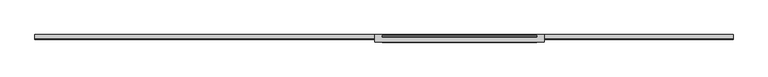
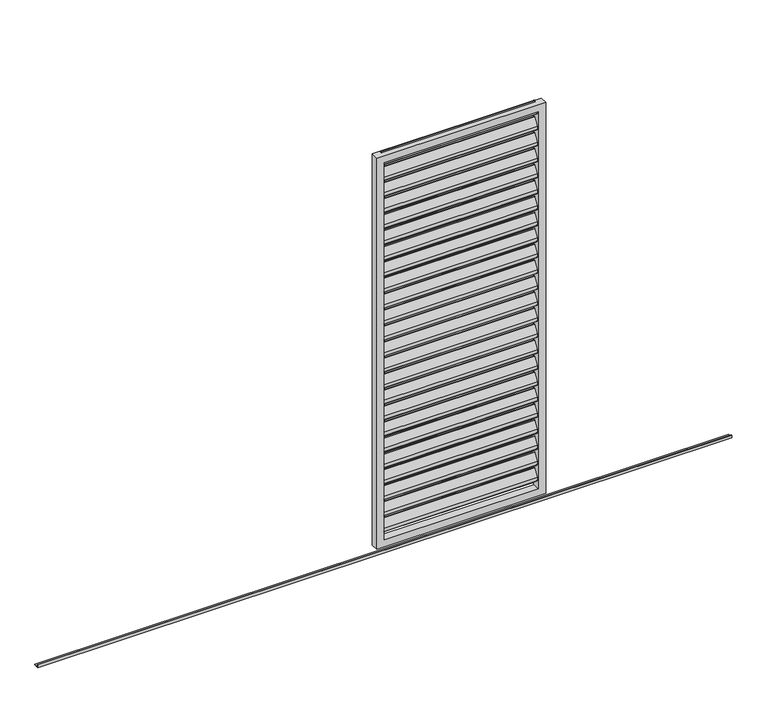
"""IFC4 building model written with IfcOpenShell, lengths in millimetres: proxy geometry, Renson_Amani_Loggia_Paro_Aluminium_Sliding : Renson_Amani_Loggia_Paro_Aluminium_Sliding."""

from ifc_helpers import new_model, si_unit, point, frame, frame_2d, origin, place, context, project, spatial, polyline, circle_curve, trimmed, segment, composite_curve, outline, extrude, source, transform, mapped, element, save


def generic_models_f3fb5b0b(model_context):
    return source(origin(), model_context, "Body", "SweptSolid", [
        extrude(outline(composite_curve([segment(trimmed(circle_curve(frame_2d((12.6675921, 2252.6587719)), 3.0), [point((10.1515804, 2254.292689))], [point((15.6675921, 2252.6587719))], False, "CARTESIAN"), True, "CONTINUOUS"), segment(polyline([(15.6675921, 2252.6587719), (15.6675921, 2234.2979873)]), True, "CONTINUOUS"), segment(trimmed(circle_curve(frame_2d((12.6675921, 2234.2979873)), 3.0), [point((15.6675921, 2234.2979873))], [point((15.1836038, 2232.6640702))], False, "CARTESIAN"), True, "CONTINUOUS"), segment(polyline([(15.1836038, 2232.6640702), (-8.8163962, 2195.707311)]), True, "CONTINUOUS"), segment(trimmed(circle_curve(frame_2d((-11.3324079, 2197.3412281)), 3.0), [point((-8.8163962, 2195.707311))], [point((-14.3324079, 2197.3412281))], False, "CARTESIAN"), True, "CONTINUOUS"), segment(polyline([(-14.3324079, 2197.3412281), (-14.3324079, 2216.5906532), (10.1515804, 2254.292689)]), True, "CONTINUOUS")], self_intersect=False)), frame((-410.0, 0.0, 0.0), z_axis=(1.0, 0.0, 0.0), x_axis=(0.0, 1.0, 0.0)), (0.0, 0.0, 1.0), 820.0),
        extrude(outline(composite_curve([segment(trimmed(circle_curve(frame_2d((12.6675921, 2162.6587719)), 3.0), [point((10.1515804, 2164.292689))], [point((15.6675921, 2162.6587719))], False, "CARTESIAN"), True, "CONTINUOUS"), segment(polyline([(15.6675921, 2162.6587719), (15.6675921, 2144.2979873)]), True, "CONTINUOUS"), segment(trimmed(circle_curve(frame_2d((12.6675921, 2144.2979873)), 3.0), [point((15.6675921, 2144.2979873))], [point((15.1836038, 2142.6640702))], False, "CARTESIAN"), True, "CONTINUOUS"), segment(polyline([(15.1836038, 2142.6640702), (-8.8163962, 2105.707311)]), True, "CONTINUOUS"), segment(trimmed(circle_curve(frame_2d((-11.3324079, 2107.3412281)), 3.0), [point((-8.8163962, 2105.707311))], [point((-14.3324079, 2107.3412281))], False, "CARTESIAN"), True, "CONTINUOUS"), segment(polyline([(-14.3324079, 2107.3412281), (-14.3324079, 2126.5906532), (10.1515804, 2164.292689)]), True, "CONTINUOUS")], self_intersect=False)), frame((-410.0, 0.0, 0.0), z_axis=(1.0, 0.0, 0.0), x_axis=(0.0, 1.0, 0.0)), (0.0, 0.0, 1.0), 820.0),
        extrude(outline(composite_curve([segment(trimmed(circle_curve(frame_2d((12.6675921, 2072.6587719)), 3.0), [point((10.1515804, 2074.292689))], [point((15.6675921, 2072.6587719))], False, "CARTESIAN"), True, "CONTINUOUS"), segment(polyline([(15.6675921, 2072.6587719), (15.6675921, 2054.2979873)]), True, "CONTINUOUS"), segment(trimmed(circle_curve(frame_2d((12.6675921, 2054.2979873)), 3.0), [point((15.6675921, 2054.2979873))], [point((15.1836038, 2052.6640702))], False, "CARTESIAN"), True, "CONTINUOUS"), segment(polyline([(15.1836038, 2052.6640702), (-8.8163962, 2015.707311)]), True, "CONTINUOUS"), segment(trimmed(circle_curve(frame_2d((-11.3324079, 2017.3412281)), 3.0), [point((-8.8163962, 2015.707311))], [point((-14.3324079, 2017.3412281))], False, "CARTESIAN"), True, "CONTINUOUS"), segment(polyline([(-14.3324079, 2017.3412281), (-14.3324079, 2036.5906532), (10.1515804, 2074.292689)]), True, "CONTINUOUS")], self_intersect=False)), frame((-410.0, 0.0, 0.0), z_axis=(1.0, 0.0, 0.0), x_axis=(0.0, 1.0, 0.0)), (0.0, 0.0, 1.0), 820.0),
        extrude(outline(composite_curve([segment(trimmed(circle_curve(frame_2d((12.6675921, 1982.6587719)), 3.0), [point((10.1515804, 1984.292689))], [point((15.6675921, 1982.6587719))], False, "CARTESIAN"), True, "CONTINUOUS"), segment(polyline([(15.6675921, 1982.6587719), (15.6675921, 1964.2979873)]), True, "CONTINUOUS"), segment(trimmed(circle_curve(frame_2d((12.6675921, 1964.2979873)), 3.0), [point((15.6675921, 1964.2979873))], [point((15.1836038, 1962.6640702))], False, "CARTESIAN"), True, "CONTINUOUS"), segment(polyline([(15.1836038, 1962.6640702), (-8.8163962, 1925.707311)]), True, "CONTINUOUS"), segment(trimmed(circle_curve(frame_2d((-11.3324079, 1927.3412281)), 3.0), [point((-8.8163962, 1925.707311))], [point((-14.3324079, 1927.3412281))], False, "CARTESIAN"), True, "CONTINUOUS"), segment(polyline([(-14.3324079, 1927.3412281), (-14.3324079, 1946.5906532), (10.1515804, 1984.292689)]), True, "CONTINUOUS")], self_intersect=False)), frame((-410.0, 0.0, 0.0), z_axis=(1.0, 0.0, 0.0), x_axis=(0.0, 1.0, 0.0)), (0.0, 0.0, 1.0), 820.0),
        extrude(outline(composite_curve([segment(trimmed(circle_curve(frame_2d((12.6675921, 1892.6587719)), 3.0), [point((10.1515804, 1894.292689))], [point((15.6675921, 1892.6587719))], False, "CARTESIAN"), True, "CONTINUOUS"), segment(polyline([(15.6675921, 1892.6587719), (15.6675921, 1874.2979873)]), True, "CONTINUOUS"), segment(trimmed(circle_curve(frame_2d((12.6675921, 1874.2979873)), 3.0), [point((15.6675921, 1874.2979873))], [point((15.1836038, 1872.6640702))], False, "CARTESIAN"), True, "CONTINUOUS"), segment(polyline([(15.1836038, 1872.6640702), (-8.8163962, 1835.707311)]), True, "CONTINUOUS"), segment(trimmed(circle_curve(frame_2d((-11.3324079, 1837.3412281)), 3.0), [point((-8.8163962, 1835.707311))], [point((-14.3324079, 1837.3412281))], False, "CARTESIAN"), True, "CONTINUOUS"), segment(polyline([(-14.3324079, 1837.3412281), (-14.3324079, 1856.5906532), (10.1515804, 1894.292689)]), True, "CONTINUOUS")], self_intersect=False)), frame((-410.0, 0.0, 0.0), z_axis=(1.0, 0.0, 0.0), x_axis=(0.0, 1.0, 0.0)), (0.0, 0.0, 1.0), 820.0),
        extrude(outline(composite_curve([segment(trimmed(circle_curve(frame_2d((12.6675921, 1802.6587719)), 3.0), [point((10.1515804, 1804.292689))], [point((15.6675921, 1802.6587719))], False, "CARTESIAN"), True, "CONTINUOUS"), segment(polyline([(15.6675921, 1802.6587719), (15.6675921, 1784.2979873)]), True, "CONTINUOUS"), segment(trimmed(circle_curve(frame_2d((12.6675921, 1784.2979873)), 3.0), [point((15.6675921, 1784.2979873))], [point((15.1836038, 1782.6640702))], False, "CARTESIAN"), True, "CONTINUOUS"), segment(polyline([(15.1836038, 1782.6640702), (-8.8163962, 1745.707311)]), True, "CONTINUOUS"), segment(trimmed(circle_curve(frame_2d((-11.3324079, 1747.3412281)), 3.0), [point((-8.8163962, 1745.707311))], [point((-14.3324079, 1747.3412281))], False, "CARTESIAN"), True, "CONTINUOUS"), segment(polyline([(-14.3324079, 1747.3412281), (-14.3324079, 1766.5906532), (10.1515804, 1804.292689)]), True, "CONTINUOUS")], self_intersect=False)), frame((-410.0, 0.0, 0.0), z_axis=(1.0, 0.0, 0.0), x_axis=(0.0, 1.0, 0.0)), (0.0, 0.0, 1.0), 820.0),
        extrude(outline(composite_curve([segment(trimmed(circle_curve(frame_2d((12.6675921, 1712.6587719)), 3.0), [point((10.1515804, 1714.292689))], [point((15.6675921, 1712.6587719))], False, "CARTESIAN"), True, "CONTINUOUS"), segment(polyline([(15.6675921, 1712.6587719), (15.6675921, 1694.2979873)]), True, "CONTINUOUS"), segment(trimmed(circle_curve(frame_2d((12.6675921, 1694.2979873)), 3.0), [point((15.6675921, 1694.2979873))], [point((15.1836038, 1692.6640702))], False, "CARTESIAN"), True, "CONTINUOUS"), segment(polyline([(15.1836038, 1692.6640702), (-8.8163962, 1655.707311)]), True, "CONTINUOUS"), segment(trimmed(circle_curve(frame_2d((-11.3324079, 1657.3412281)), 3.0), [point((-8.8163962, 1655.707311))], [point((-14.3324079, 1657.3412281))], False, "CARTESIAN"), True, "CONTINUOUS"), segment(polyline([(-14.3324079, 1657.3412281), (-14.3324079, 1676.5906532), (10.1515804, 1714.292689)]), True, "CONTINUOUS")], self_intersect=False)), frame((-410.0, 0.0, 0.0), z_axis=(1.0, 0.0, 0.0), x_axis=(0.0, 1.0, 0.0)), (0.0, 0.0, 1.0), 820.0),
        extrude(outline(composite_curve([segment(trimmed(circle_curve(frame_2d((12.6675921, 1622.6587719)), 3.0), [point((10.1515804, 1624.292689))], [point((15.6675921, 1622.6587719))], False, "CARTESIAN"), True, "CONTINUOUS"), segment(polyline([(15.6675921, 1622.6587719), (15.6675921, 1604.2979873)]), True, "CONTINUOUS"), segment(trimmed(circle_curve(frame_2d((12.6675921, 1604.2979873)), 3.0), [point((15.6675921, 1604.2979873))], [point((15.1836038, 1602.6640702))], False, "CARTESIAN"), True, "CONTINUOUS"), segment(polyline([(15.1836038, 1602.6640702), (-8.8163962, 1565.707311)]), True, "CONTINUOUS"), segment(trimmed(circle_curve(frame_2d((-11.3324079, 1567.3412281)), 3.0), [point((-8.8163962, 1565.707311))], [point((-14.3324079, 1567.3412281))], False, "CARTESIAN"), True, "CONTINUOUS"), segment(polyline([(-14.3324079, 1567.3412281), (-14.3324079, 1586.5906532), (10.1515804, 1624.292689)]), True, "CONTINUOUS")], self_intersect=False)), frame((-410.0, 0.0, 0.0), z_axis=(1.0, 0.0, 0.0), x_axis=(0.0, 1.0, 0.0)), (0.0, 0.0, 1.0), 820.0),
        extrude(outline(composite_curve([segment(trimmed(circle_curve(frame_2d((12.6675921, 1532.6587719)), 3.0), [point((10.1515804, 1534.292689))], [point((15.6675921, 1532.6587719))], False, "CARTESIAN"), True, "CONTINUOUS"), segment(polyline([(15.6675921, 1532.6587719), (15.6675921, 1514.2979873)]), True, "CONTINUOUS"), segment(trimmed(circle_curve(frame_2d((12.6675921, 1514.2979873)), 3.0), [point((15.6675921, 1514.2979873))], [point((15.1836038, 1512.6640702))], False, "CARTESIAN"), True, "CONTINUOUS"), segment(polyline([(15.1836038, 1512.6640702), (-8.8163962, 1475.707311)]), True, "CONTINUOUS"), segment(trimmed(circle_curve(frame_2d((-11.3324079, 1477.3412281)), 3.0), [point((-8.8163962, 1475.707311))], [point((-14.3324079, 1477.3412281))], False, "CARTESIAN"), True, "CONTINUOUS"), segment(polyline([(-14.3324079, 1477.3412281), (-14.3324079, 1496.5906532), (10.1515804, 1534.292689)]), True, "CONTINUOUS")], self_intersect=False)), frame((-410.0, 0.0, 0.0), z_axis=(1.0, 0.0, 0.0), x_axis=(0.0, 1.0, 0.0)), (0.0, 0.0, 1.0), 820.0),
        extrude(outline(composite_curve([segment(trimmed(circle_curve(frame_2d((12.6675921, 1442.6587719)), 3.0), [point((10.1515804, 1444.292689))], [point((15.6675921, 1442.6587719))], False, "CARTESIAN"), True, "CONTINUOUS"), segment(polyline([(15.6675921, 1442.6587719), (15.6675921, 1424.2979873)]), True, "CONTINUOUS"), segment(trimmed(circle_curve(frame_2d((12.6675921, 1424.2979873)), 3.0), [point((15.6675921, 1424.2979873))], [point((15.1836038, 1422.6640702))], False, "CARTESIAN"), True, "CONTINUOUS"), segment(polyline([(15.1836038, 1422.6640702), (-8.8163962, 1385.707311)]), True, "CONTINUOUS"), segment(trimmed(circle_curve(frame_2d((-11.3324079, 1387.3412281)), 3.0), [point((-8.8163962, 1385.707311))], [point((-14.3324079, 1387.3412281))], False, "CARTESIAN"), True, "CONTINUOUS"), segment(polyline([(-14.3324079, 1387.3412281), (-14.3324079, 1406.5906532), (10.1515804, 1444.292689)]), True, "CONTINUOUS")], self_intersect=False)), frame((-410.0, 0.0, 0.0), z_axis=(1.0, 0.0, 0.0), x_axis=(0.0, 1.0, 0.0)), (0.0, 0.0, 1.0), 820.0),
        extrude(outline(composite_curve([segment(trimmed(circle_curve(frame_2d((12.6675921, 1352.6587719)), 3.0), [point((10.1515804, 1354.292689))], [point((15.6675921, 1352.6587719))], False, "CARTESIAN"), True, "CONTINUOUS"), segment(polyline([(15.6675921, 1352.6587719), (15.6675921, 1334.2979873)]), True, "CONTINUOUS"), segment(trimmed(circle_curve(frame_2d((12.6675921, 1334.2979873)), 3.0), [point((15.6675921, 1334.2979873))], [point((15.1836038, 1332.6640702))], False, "CARTESIAN"), True, "CONTINUOUS"), segment(polyline([(15.1836038, 1332.6640702), (-8.8163962, 1295.707311)]), True, "CONTINUOUS"), segment(trimmed(circle_curve(frame_2d((-11.3324079, 1297.3412281)), 3.0), [point((-8.8163962, 1295.707311))], [point((-14.3324079, 1297.3412281))], False, "CARTESIAN"), True, "CONTINUOUS"), segment(polyline([(-14.3324079, 1297.3412281), (-14.3324079, 1316.5906532), (10.1515804, 1354.292689)]), True, "CONTINUOUS")], self_intersect=False)), frame((-410.0, 0.0, 0.0), z_axis=(1.0, 0.0, 0.0), x_axis=(0.0, 1.0, 0.0)), (0.0, 0.0, 1.0), 820.0),
        extrude(outline(composite_curve([segment(trimmed(circle_curve(frame_2d((12.6675921, 1262.6587719)), 3.0), [point((10.1515804, 1264.292689))], [point((15.6675921, 1262.6587719))], False, "CARTESIAN"), True, "CONTINUOUS"), segment(polyline([(15.6675921, 1262.6587719), (15.6675921, 1244.2979873)]), True, "CONTINUOUS"), segment(trimmed(circle_curve(frame_2d((12.6675921, 1244.2979873)), 3.0), [point((15.6675921, 1244.2979873))], [point((15.1836038, 1242.6640702))], False, "CARTESIAN"), True, "CONTINUOUS"), segment(polyline([(15.1836038, 1242.6640702), (-8.8163962, 1205.707311)]), True, "CONTINUOUS"), segment(trimmed(circle_curve(frame_2d((-11.3324079, 1207.3412281)), 3.0), [point((-8.8163962, 1205.707311))], [point((-14.3324079, 1207.3412281))], False, "CARTESIAN"), True, "CONTINUOUS"), segment(polyline([(-14.3324079, 1207.3412281), (-14.3324079, 1226.5906532), (10.1515804, 1264.292689)]), True, "CONTINUOUS")], self_intersect=False)), frame((-410.0, 0.0, 0.0), z_axis=(1.0, 0.0, 0.0), x_axis=(0.0, 1.0, 0.0)), (0.0, 0.0, 1.0), 820.0),
        extrude(outline(composite_curve([segment(trimmed(circle_curve(frame_2d((12.6675921, 1172.6587719)), 3.0), [point((10.1515804, 1174.292689))], [point((15.6675921, 1172.6587719))], False, "CARTESIAN"), True, "CONTINUOUS"), segment(polyline([(15.6675921, 1172.6587719), (15.6675921, 1154.2979873)]), True, "CONTINUOUS"), segment(trimmed(circle_curve(frame_2d((12.6675921, 1154.2979873)), 3.0), [point((15.6675921, 1154.2979873))], [point((15.1836038, 1152.6640702))], False, "CARTESIAN"), True, "CONTINUOUS"), segment(polyline([(15.1836038, 1152.6640702), (-8.8163962, 1115.707311)]), True, "CONTINUOUS"), segment(trimmed(circle_curve(frame_2d((-11.3324079, 1117.3412281)), 3.0), [point((-8.8163962, 1115.707311))], [point((-14.3324079, 1117.3412281))], False, "CARTESIAN"), True, "CONTINUOUS"), segment(polyline([(-14.3324079, 1117.3412281), (-14.3324079, 1136.5906532), (10.1515804, 1174.292689)]), True, "CONTINUOUS")], self_intersect=False)), frame((-410.0, 0.0, 0.0), z_axis=(1.0, 0.0, 0.0), x_axis=(0.0, 1.0, 0.0)), (0.0, 0.0, 1.0), 820.0),
        extrude(outline(composite_curve([segment(trimmed(circle_curve(frame_2d((12.6675921, 1082.6587719)), 3.0), [point((10.1515804, 1084.292689))], [point((15.6675921, 1082.6587719))], False, "CARTESIAN"), True, "CONTINUOUS"), segment(polyline([(15.6675921, 1082.6587719), (15.6675921, 1064.2979873)]), True, "CONTINUOUS"), segment(trimmed(circle_curve(frame_2d((12.6675921, 1064.2979873)), 3.0), [point((15.6675921, 1064.2979873))], [point((15.1836038, 1062.6640702))], False, "CARTESIAN"), True, "CONTINUOUS"), segment(polyline([(15.1836038, 1062.6640702), (-8.8163962, 1025.707311)]), True, "CONTINUOUS"), segment(trimmed(circle_curve(frame_2d((-11.3324079, 1027.3412281)), 3.0), [point((-8.8163962, 1025.707311))], [point((-14.3324079, 1027.3412281))], False, "CARTESIAN"), True, "CONTINUOUS"), segment(polyline([(-14.3324079, 1027.3412281), (-14.3324079, 1046.5906532), (10.1515804, 1084.292689)]), True, "CONTINUOUS")], self_intersect=False)), frame((-410.0, 0.0, 0.0), z_axis=(1.0, 0.0, 0.0), x_axis=(0.0, 1.0, 0.0)), (0.0, 0.0, 1.0), 820.0),
        extrude(outline(composite_curve([segment(trimmed(circle_curve(frame_2d((12.6675921, 992.6587719)), 3.0), [point((10.1515804, 994.292689))], [point((15.6675921, 992.6587719))], False, "CARTESIAN"), True, "CONTINUOUS"), segment(polyline([(15.6675921, 992.6587719), (15.6675921, 974.2979873)]), True, "CONTINUOUS"), segment(trimmed(circle_curve(frame_2d((12.6675921, 974.2979873)), 3.0), [point((15.6675921, 974.2979873))], [point((15.1836038, 972.6640702))], False, "CARTESIAN"), True, "CONTINUOUS"), segment(polyline([(15.1836038, 972.6640702), (-8.8163962, 935.707311)]), True, "CONTINUOUS"), segment(trimmed(circle_curve(frame_2d((-11.3324079, 937.3412281)), 3.0), [point((-8.8163962, 935.707311))], [point((-14.3324079, 937.3412281))], False, "CARTESIAN"), True, "CONTINUOUS"), segment(polyline([(-14.3324079, 937.3412281), (-14.3324079, 956.5906532), (10.1515804, 994.292689)]), True, "CONTINUOUS")], self_intersect=False)), frame((-410.0, 0.0, 0.0), z_axis=(1.0, 0.0, 0.0), x_axis=(0.0, 1.0, 0.0)), (0.0, 0.0, 1.0), 820.0),
        extrude(outline(composite_curve([segment(trimmed(circle_curve(frame_2d((12.6675921, 902.6587719)), 3.0), [point((10.1515804, 904.292689))], [point((15.6675921, 902.6587719))], False, "CARTESIAN"), True, "CONTINUOUS"), segment(polyline([(15.6675921, 902.6587719), (15.6675921, 884.2979873)]), True, "CONTINUOUS"), segment(trimmed(circle_curve(frame_2d((12.6675921, 884.2979873)), 3.0), [point((15.6675921, 884.2979873))], [point((15.1836038, 882.6640702))], False, "CARTESIAN"), True, "CONTINUOUS"), segment(polyline([(15.1836038, 882.6640702), (-8.8163962, 845.707311)]), True, "CONTINUOUS"), segment(trimmed(circle_curve(frame_2d((-11.3324079, 847.3412281)), 3.0), [point((-8.8163962, 845.707311))], [point((-14.3324079, 847.3412281))], False, "CARTESIAN"), True, "CONTINUOUS"), segment(polyline([(-14.3324079, 847.3412281), (-14.3324079, 866.5906532), (10.1515804, 904.292689)]), True, "CONTINUOUS")], self_intersect=False)), frame((-410.0, 0.0, 0.0), z_axis=(1.0, 0.0, 0.0), x_axis=(0.0, 1.0, 0.0)), (0.0, 0.0, 1.0), 820.0),
        extrude(outline(composite_curve([segment(trimmed(circle_curve(frame_2d((12.6675921, 812.6587719)), 3.0), [point((10.1515804, 814.292689))], [point((15.6675921, 812.6587719))], False, "CARTESIAN"), True, "CONTINUOUS"), segment(polyline([(15.6675921, 812.6587719), (15.6675921, 794.2979873)]), True, "CONTINUOUS"), segment(trimmed(circle_curve(frame_2d((12.6675921, 794.2979873)), 3.0), [point((15.6675921, 794.2979873))], [point((15.1836038, 792.6640702))], False, "CARTESIAN"), True, "CONTINUOUS"), segment(polyline([(15.1836038, 792.6640702), (-8.8163962, 755.707311)]), True, "CONTINUOUS"), segment(trimmed(circle_curve(frame_2d((-11.3324079, 757.3412281)), 3.0), [point((-8.8163962, 755.707311))], [point((-14.3324079, 757.3412281))], False, "CARTESIAN"), True, "CONTINUOUS"), segment(polyline([(-14.3324079, 757.3412281), (-14.3324079, 776.5906532), (10.1515804, 814.292689)]), True, "CONTINUOUS")], self_intersect=False)), frame((-410.0, 0.0, 0.0), z_axis=(1.0, 0.0, 0.0), x_axis=(0.0, 1.0, 0.0)), (0.0, 0.0, 1.0), 820.0),
        extrude(outline(composite_curve([segment(trimmed(circle_curve(frame_2d((12.6675921, 722.6587719)), 3.0), [point((10.1515804, 724.292689))], [point((15.6675921, 722.6587719))], False, "CARTESIAN"), True, "CONTINUOUS"), segment(polyline([(15.6675921, 722.6587719), (15.6675921, 704.2979873)]), True, "CONTINUOUS"), segment(trimmed(circle_curve(frame_2d((12.6675921, 704.2979873)), 3.0), [point((15.6675921, 704.2979873))], [point((15.1836038, 702.6640702))], False, "CARTESIAN"), True, "CONTINUOUS"), segment(polyline([(15.1836038, 702.6640702), (-8.8163962, 665.707311)]), True, "CONTINUOUS"), segment(trimmed(circle_curve(frame_2d((-11.3324079, 667.3412281)), 3.0), [point((-8.8163962, 665.707311))], [point((-14.3324079, 667.3412281))], False, "CARTESIAN"), True, "CONTINUOUS"), segment(polyline([(-14.3324079, 667.3412281), (-14.3324079, 686.5906532), (10.1515804, 724.292689)]), True, "CONTINUOUS")], self_intersect=False)), frame((-410.0, 0.0, 0.0), z_axis=(1.0, 0.0, 0.0), x_axis=(0.0, 1.0, 0.0)), (0.0, 0.0, 1.0), 820.0),
        extrude(outline(composite_curve([segment(trimmed(circle_curve(frame_2d((12.6675921, 632.6587719)), 3.0), [point((10.1515804, 634.292689))], [point((15.6675921, 632.6587719))], False, "CARTESIAN"), True, "CONTINUOUS"), segment(polyline([(15.6675921, 632.6587719), (15.6675921, 614.2979873)]), True, "CONTINUOUS"), segment(trimmed(circle_curve(frame_2d((12.6675921, 614.2979873)), 3.0), [point((15.6675921, 614.2979873))], [point((15.1836038, 612.6640702))], False, "CARTESIAN"), True, "CONTINUOUS"), segment(polyline([(15.1836038, 612.6640702), (-8.8163962, 575.707311)]), True, "CONTINUOUS"), segment(trimmed(circle_curve(frame_2d((-11.3324079, 577.3412281)), 3.0), [point((-8.8163962, 575.707311))], [point((-14.3324079, 577.3412281))], False, "CARTESIAN"), True, "CONTINUOUS"), segment(polyline([(-14.3324079, 577.3412281), (-14.3324079, 596.5906532), (10.1515804, 634.292689)]), True, "CONTINUOUS")], self_intersect=False)), frame((-410.0, 0.0, 0.0), z_axis=(1.0, 0.0, 0.0), x_axis=(0.0, 1.0, 0.0)), (0.0, 0.0, 1.0), 820.0),
        extrude(outline(composite_curve([segment(trimmed(circle_curve(frame_2d((12.6675921, 542.6587719)), 3.0), [point((10.1515804, 544.292689))], [point((15.6675921, 542.6587719))], False, "CARTESIAN"), True, "CONTINUOUS"), segment(polyline([(15.6675921, 542.6587719), (15.6675921, 524.2979873)]), True, "CONTINUOUS"), segment(trimmed(circle_curve(frame_2d((12.6675921, 524.2979873)), 3.0), [point((15.6675921, 524.2979873))], [point((15.1836038, 522.6640702))], False, "CARTESIAN"), True, "CONTINUOUS"), segment(polyline([(15.1836038, 522.6640702), (-8.8163962, 485.707311)]), True, "CONTINUOUS"), segment(trimmed(circle_curve(frame_2d((-11.3324079, 487.3412281)), 3.0), [point((-8.8163962, 485.707311))], [point((-14.3324079, 487.3412281))], False, "CARTESIAN"), True, "CONTINUOUS"), segment(polyline([(-14.3324079, 487.3412281), (-14.3324079, 506.5906532), (10.1515804, 544.292689)]), True, "CONTINUOUS")], self_intersect=False)), frame((-410.0, 0.0, 0.0), z_axis=(1.0, 0.0, 0.0), x_axis=(0.0, 1.0, 0.0)), (0.0, 0.0, 1.0), 820.0),
        extrude(outline(composite_curve([segment(trimmed(circle_curve(frame_2d((12.6675921, 452.6587719)), 3.0), [point((10.1515804, 454.292689))], [point((15.6675921, 452.6587719))], False, "CARTESIAN"), True, "CONTINUOUS"), segment(polyline([(15.6675921, 452.6587719), (15.6675921, 434.2979873)]), True, "CONTINUOUS"), segment(trimmed(circle_curve(frame_2d((12.6675921, 434.2979873)), 3.0), [point((15.6675921, 434.2979873))], [point((15.1836038, 432.6640702))], False, "CARTESIAN"), True, "CONTINUOUS"), segment(polyline([(15.1836038, 432.6640702), (-8.8163962, 395.707311)]), True, "CONTINUOUS"), segment(trimmed(circle_curve(frame_2d((-11.3324079, 397.3412281)), 3.0), [point((-8.8163962, 395.707311))], [point((-14.3324079, 397.3412281))], False, "CARTESIAN"), True, "CONTINUOUS"), segment(polyline([(-14.3324079, 397.3412281), (-14.3324079, 416.5906532), (10.1515804, 454.292689)]), True, "CONTINUOUS")], self_intersect=False)), frame((-410.0, 0.0, 0.0), z_axis=(1.0, 0.0, 0.0), x_axis=(0.0, 1.0, 0.0)), (0.0, 0.0, 1.0), 820.0),
        extrude(outline(composite_curve([segment(trimmed(circle_curve(frame_2d((12.6675921, 362.6587719)), 3.0), [point((10.1515804, 364.292689))], [point((15.6675921, 362.6587719))], False, "CARTESIAN"), True, "CONTINUOUS"), segment(polyline([(15.6675921, 362.6587719), (15.6675921, 344.2979873)]), True, "CONTINUOUS"), segment(trimmed(circle_curve(frame_2d((12.6675921, 344.2979873)), 3.0), [point((15.6675921, 344.2979873))], [point((15.1836038, 342.6640702))], False, "CARTESIAN"), True, "CONTINUOUS"), segment(polyline([(15.1836038, 342.6640702), (-8.8163962, 305.707311)]), True, "CONTINUOUS"), segment(trimmed(circle_curve(frame_2d((-11.3324079, 307.3412281)), 3.0), [point((-8.8163962, 305.707311))], [point((-14.3324079, 307.3412281))], False, "CARTESIAN"), True, "CONTINUOUS"), segment(polyline([(-14.3324079, 307.3412281), (-14.3324079, 326.5906532), (10.1515804, 364.292689)]), True, "CONTINUOUS")], self_intersect=False)), frame((-410.0, 0.0, 0.0), z_axis=(1.0, 0.0, 0.0), x_axis=(0.0, 1.0, 0.0)), (0.0, 0.0, 1.0), 820.0),
        extrude(outline(composite_curve([segment(trimmed(circle_curve(frame_2d((12.6675921, 272.6587719)), 3.0), [point((10.1515804, 274.292689))], [point((15.6675921, 272.6587719))], False, "CARTESIAN"), True, "CONTINUOUS"), segment(polyline([(15.6675921, 272.6587719), (15.6675921, 254.2979873)]), True, "CONTINUOUS"), segment(trimmed(circle_curve(frame_2d((12.6675921, 254.2979873)), 3.0), [point((15.6675921, 254.2979873))], [point((15.1836038, 252.6640702))], False, "CARTESIAN"), True, "CONTINUOUS"), segment(polyline([(15.1836038, 252.6640702), (-8.8163962, 215.707311)]), True, "CONTINUOUS"), segment(trimmed(circle_curve(frame_2d((-11.3324079, 217.3412281)), 3.0), [point((-8.8163962, 215.707311))], [point((-14.3324079, 217.3412281))], False, "CARTESIAN"), True, "CONTINUOUS"), segment(polyline([(-14.3324079, 217.3412281), (-14.3324079, 236.5906532), (10.1515804, 274.292689)]), True, "CONTINUOUS")], self_intersect=False)), frame((-410.0, 0.0, 0.0), z_axis=(1.0, 0.0, 0.0), x_axis=(0.0, 1.0, 0.0)), (0.0, 0.0, 1.0), 820.0),
        extrude(outline(composite_curve([segment(trimmed(circle_curve(frame_2d((12.6675921, 182.6587719)), 3.0), [point((10.1515804, 184.292689))], [point((15.6675921, 182.6587719))], False, "CARTESIAN"), True, "CONTINUOUS"), segment(polyline([(15.6675921, 182.6587719), (15.6675921, 164.2979873)]), True, "CONTINUOUS"), segment(trimmed(circle_curve(frame_2d((12.6675921, 164.2979873)), 3.0), [point((15.6675921, 164.2979873))], [point((15.1836038, 162.6640702))], False, "CARTESIAN"), True, "CONTINUOUS"), segment(polyline([(15.1836038, 162.6640702), (-8.8163962, 125.707311)]), True, "CONTINUOUS"), segment(trimmed(circle_curve(frame_2d((-11.3324079, 127.3412281)), 3.0), [point((-8.8163962, 125.707311))], [point((-14.3324079, 127.3412281))], False, "CARTESIAN"), True, "CONTINUOUS"), segment(polyline([(-14.3324079, 127.3412281), (-14.3324079, 146.5906532), (10.1515804, 184.292689)]), True, "CONTINUOUS")], self_intersect=False)), frame((-410.0, 0.0, 0.0), z_axis=(1.0, 0.0, 0.0), x_axis=(0.0, 1.0, 0.0)), (0.0, 0.0, 1.0), 820.0),
        extrude(outline(polyline([(-6.0, 15.0), (-3.0, 15.0), (-3.0, 3.0), (20.0, 3.0), (20.0, 0.0), (-6.0, 0.0), (-6.0, 15.0)])), frame((-2250.0, 0.0, 0.0), z_axis=(1.0, 0.0, 0.0), x_axis=(0.0, 1.0, 0.0)), (0.0, 0.0, 1.0), 3700.0),
        extrude(outline(polyline([(2250.0, -450.0), (45.0, -450.0), (45.0, 450.0), (2250.0, 450.0), (2250.0, -450.0)]), holes=[polyline([(2210.0, 410.0), (85.0, 410.0), (85.0, -410.0), (2210.0, -410.0), (2210.0, 410.0)])]), frame((0.0, -20.0, 0.0), z_axis=(0.0, 1.0, 0.0), x_axis=(0.0, 0.0, 1.0)), (0.0, 0.0, 1.0), 40.0),
    ])


if __name__ == "__main__":
    model = new_model("IFC4")
    model_context = context("Model", 3, world=origin())
    ifc_project = project(units=[si_unit("LENGTHUNIT", "METRE", prefix="MILLI")], contexts=[model_context])
    site = spatial("IfcSite", under=ifc_project)
    building = spatial("IfcBuilding", under=site)
    placement = place(None, origin())
    generic_models_shape = generic_models_f3fb5b0b(model_context)
    element("IfcBuildingElementProxy", 1, Name="Renson_Amani_Loggia_Paro_Aluminium_Sliding : Renson_Amani_Loggia_Paro_Aluminium_Sliding", ObjectType="Renson_Amani_Loggia_Paro_Aluminium_Sliding : Renson_Amani_Loggia_Paro_Aluminium_Sliding", at=placement, inside=building, context=model_context, shape_type="MappedRepresentation", body=[
        mapped(generic_models_shape, transform((0.0, 0.0, 0.0), x_axis=(1.0, 0.0, 0.0), y_axis=(0.0, 1.0, 0.0), z_axis=(0.0, 0.0, 1.0))),
    ])
    save(model, "model.ifc")
